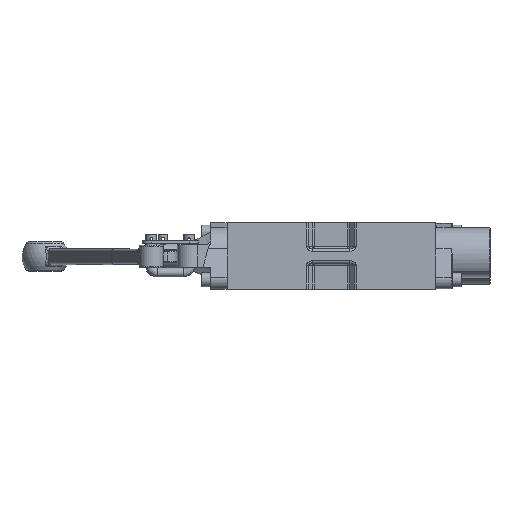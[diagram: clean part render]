
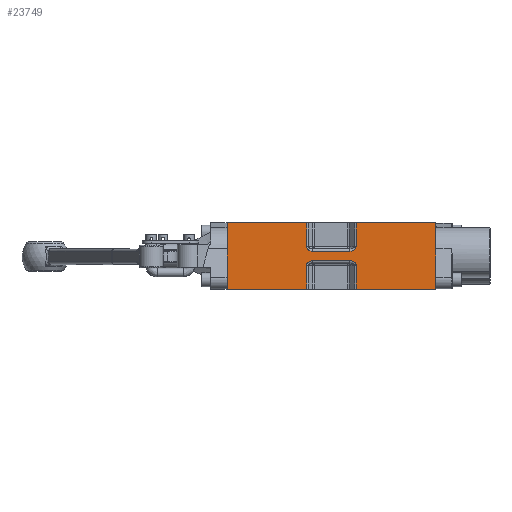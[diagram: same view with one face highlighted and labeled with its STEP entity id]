
A CAD part, front view. The second image highlights one B-rep face of the part: STEP entity #23749.
In plain terms, the highlighted planar face has unit normal (0, -1, 0).
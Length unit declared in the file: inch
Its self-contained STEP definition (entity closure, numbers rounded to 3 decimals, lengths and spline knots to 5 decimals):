
#19075=CARTESIAN_POINT('',(-0.65413,-3.375,-0.249));
#19076=VERTEX_POINT('',#19075);
#19085=CARTESIAN_POINT('',(-0.49092,-3.375,-0.124));
#19086=VERTEX_POINT('',#19085);
#19094=CARTESIAN_POINT('',(-0.49092,-3.375,-0.249));
#19095=DIRECTION('',(0.0,-1.0,0.0));
#19096=DIRECTION('',(-1.0,0.0,0.0));
#19097=AXIS2_PLACEMENT_3D('',#19094,#19095,#19096);
#19098=ELLIPSE('',#19097,0.16321,0.125);
#19099=EDGE_CURVE('',#19086,#19076,#19098,.T.);
#19111=CARTESIAN_POINT('',(0.49092,-3.375,-0.124));
#19112=VERTEX_POINT('',#19111);
#19120=CARTESIAN_POINT('',(0.49092,-3.375,-0.124));
#19121=DIRECTION('',(-1.0,0.0,0.0));
#19122=VECTOR('',#19121,0.98184);
#19123=LINE('',#19120,#19122);
#19124=EDGE_CURVE('',#19112,#19086,#19123,.T.);
#19157=CARTESIAN_POINT('',(0.65413,-3.375,-0.249));
#19158=VERTEX_POINT('',#19157);
#19166=CARTESIAN_POINT('',(0.49092,-3.375,-0.249));
#19167=DIRECTION('',(0.0,-1.0,0.0));
#19168=DIRECTION('',(1.0,0.0,0.0));
#19169=AXIS2_PLACEMENT_3D('',#19166,#19167,#19168);
#19170=ELLIPSE('',#19169,0.16321,0.125);
#19171=EDGE_CURVE('',#19158,#19112,#19170,.T.);
#19283=CARTESIAN_POINT('',(-0.65413,-3.375,0.249));
#19284=VERTEX_POINT('',#19283);
#19292=CARTESIAN_POINT('',(-0.49092,-3.375,0.124));
#19293=VERTEX_POINT('',#19292);
#19294=CARTESIAN_POINT('',(-0.49092,-3.375,0.249));
#19295=DIRECTION('',(0.0,-1.0,0.0));
#19296=DIRECTION('',(-1.0,0.0,0.0));
#19297=AXIS2_PLACEMENT_3D('',#19294,#19295,#19296);
#19298=ELLIPSE('',#19297,0.16321,0.125);
#19299=EDGE_CURVE('',#19284,#19293,#19298,.T.);
#19318=CARTESIAN_POINT('',(0.49092,-3.375,0.124));
#19319=VERTEX_POINT('',#19318);
#19320=CARTESIAN_POINT('',(-0.49092,-3.375,0.124));
#19321=DIRECTION('',(1.0,0.0,0.0));
#19322=VECTOR('',#19321,0.98184);
#19323=LINE('',#19320,#19322);
#19324=EDGE_CURVE('',#19293,#19319,#19323,.T.);
#19369=CARTESIAN_POINT('',(0.65413,-3.375,0.249));
#19370=VERTEX_POINT('',#19369);
#19371=CARTESIAN_POINT('',(0.49092,-3.375,0.249));
#19372=DIRECTION('',(0.0,-1.0,0.0));
#19373=DIRECTION('',(1.0,0.0,0.0));
#19374=AXIS2_PLACEMENT_3D('',#19371,#19372,#19373);
#19375=ELLIPSE('',#19374,0.16321,0.125);
#19376=EDGE_CURVE('',#19319,#19370,#19375,.T.);
#19402=CARTESIAN_POINT('',(-0.65413,-3.375,0.875));
#19403=VERTEX_POINT('',#19402);
#19411=CARTESIAN_POINT('',(-0.65413,-3.375,0.875));
#19412=DIRECTION('',(0.0,0.0,-1.0));
#19413=VECTOR('',#19412,0.626);
#19414=LINE('',#19411,#19413);
#19415=EDGE_CURVE('',#19403,#19284,#19414,.T.);
#19548=CARTESIAN_POINT('',(0.65413,-3.375,0.875));
#19549=VERTEX_POINT('',#19548);
#19550=CARTESIAN_POINT('',(0.65413,-3.375,0.249));
#19551=DIRECTION('',(0.0,0.0,1.0));
#19552=VECTOR('',#19551,0.626);
#19553=LINE('',#19550,#19552);
#19554=EDGE_CURVE('',#19370,#19549,#19553,.T.);
#21754=CARTESIAN_POINT('',(-2.75,-3.375,0.875));
#21755=VERTEX_POINT('',#21754);
#21764=CARTESIAN_POINT('',(-0.65413,-3.375,0.875));
#21765=DIRECTION('',(-1.0,0.0,0.0));
#21766=VECTOR('',#21765,2.09587);
#21767=LINE('',#21764,#21766);
#21768=EDGE_CURVE('',#19403,#21755,#21767,.T.);
#21777=CARTESIAN_POINT('',(2.75,-3.375,0.875));
#21778=VERTEX_POINT('',#21777);
#21779=CARTESIAN_POINT('',(2.75,-3.375,0.875));
#21780=DIRECTION('',(-1.0,0.0,0.0));
#21781=VECTOR('',#21780,2.09587);
#21782=LINE('',#21779,#21781);
#21783=EDGE_CURVE('',#21778,#19549,#21782,.T.);
#22488=CARTESIAN_POINT('',(2.75,-3.375,-0.875));
#22489=VERTEX_POINT('',#22488);
#22490=CARTESIAN_POINT('',(2.75,-3.375,-0.875));
#22491=DIRECTION('',(0.0,0.0,1.0));
#22492=VECTOR('',#22491,1.75);
#22493=LINE('',#22490,#22492);
#22494=EDGE_CURVE('',#22489,#21778,#22493,.T.);
#23148=CARTESIAN_POINT('',(-0.65413,-3.375,-0.875));
#23149=VERTEX_POINT('',#23148);
#23159=CARTESIAN_POINT('',(-2.75,-3.375,-0.875));
#23160=VERTEX_POINT('',#23159);
#23161=CARTESIAN_POINT('',(-2.75,-3.375,-0.875));
#23162=DIRECTION('',(1.0,0.0,0.0));
#23163=VECTOR('',#23162,2.09587);
#23164=LINE('',#23161,#23163);
#23165=EDGE_CURVE('',#23160,#23149,#23164,.T.);
#23203=CARTESIAN_POINT('',(0.65413,-3.375,-0.875));
#23204=VERTEX_POINT('',#23203);
#23205=CARTESIAN_POINT('',(0.65413,-3.375,-0.875));
#23206=DIRECTION('',(1.0,0.0,0.0));
#23207=VECTOR('',#23206,2.09587);
#23208=LINE('',#23205,#23207);
#23209=EDGE_CURVE('',#23204,#22489,#23208,.T.);
#23711=CARTESIAN_POINT('',(2.844,-3.375,0.0));
#23712=DIRECTION('',(0.0,-1.0,0.0));
#23713=DIRECTION('',(0.0,0.0,-1.0));
#23714=AXIS2_PLACEMENT_3D('',#23711,#23712,#23713);
#23715=PLANE('',#23714);
#23716=ORIENTED_EDGE('',*,*,#19415,.F.);
#23717=ORIENTED_EDGE('',*,*,#21768,.T.);
#23718=CARTESIAN_POINT('',(-2.75,-3.375,0.875));
#23719=DIRECTION('',(0.0,0.0,-1.0));
#23720=VECTOR('',#23719,1.75);
#23721=LINE('',#23718,#23720);
#23722=EDGE_CURVE('',#21755,#23160,#23721,.T.);
#23723=ORIENTED_EDGE('',*,*,#23722,.T.);
#23724=ORIENTED_EDGE('',*,*,#23165,.T.);
#23725=CARTESIAN_POINT('',(-0.65413,-3.375,-0.249));
#23726=DIRECTION('',(0.0,0.0,-1.0));
#23727=VECTOR('',#23726,0.626);
#23728=LINE('',#23725,#23727);
#23729=EDGE_CURVE('',#19076,#23149,#23728,.T.);
#23730=ORIENTED_EDGE('',*,*,#23729,.F.);
#23731=ORIENTED_EDGE('',*,*,#19099,.F.);
#23732=ORIENTED_EDGE('',*,*,#19124,.F.);
#23733=ORIENTED_EDGE('',*,*,#19171,.F.);
#23734=CARTESIAN_POINT('',(0.65413,-3.375,-0.875));
#23735=DIRECTION('',(0.0,0.0,1.0));
#23736=VECTOR('',#23735,0.626);
#23737=LINE('',#23734,#23736);
#23738=EDGE_CURVE('',#23204,#19158,#23737,.T.);
#23739=ORIENTED_EDGE('',*,*,#23738,.F.);
#23740=ORIENTED_EDGE('',*,*,#23209,.T.);
#23741=ORIENTED_EDGE('',*,*,#22494,.T.);
#23742=ORIENTED_EDGE('',*,*,#21783,.T.);
#23743=ORIENTED_EDGE('',*,*,#19554,.F.);
#23744=ORIENTED_EDGE('',*,*,#19376,.F.);
#23745=ORIENTED_EDGE('',*,*,#19324,.F.);
#23746=ORIENTED_EDGE('',*,*,#19299,.F.);
#23747=EDGE_LOOP('',(#23716,#23717,#23723,#23724,#23730,#23731,#23732,#23733,#23739,#23740,#23741,#23742,#23743,#23744,#23745,#23746));
#23748=FACE_OUTER_BOUND('',#23747,.T.);
#23749=ADVANCED_FACE('',(#23748),#23715,.T.);
